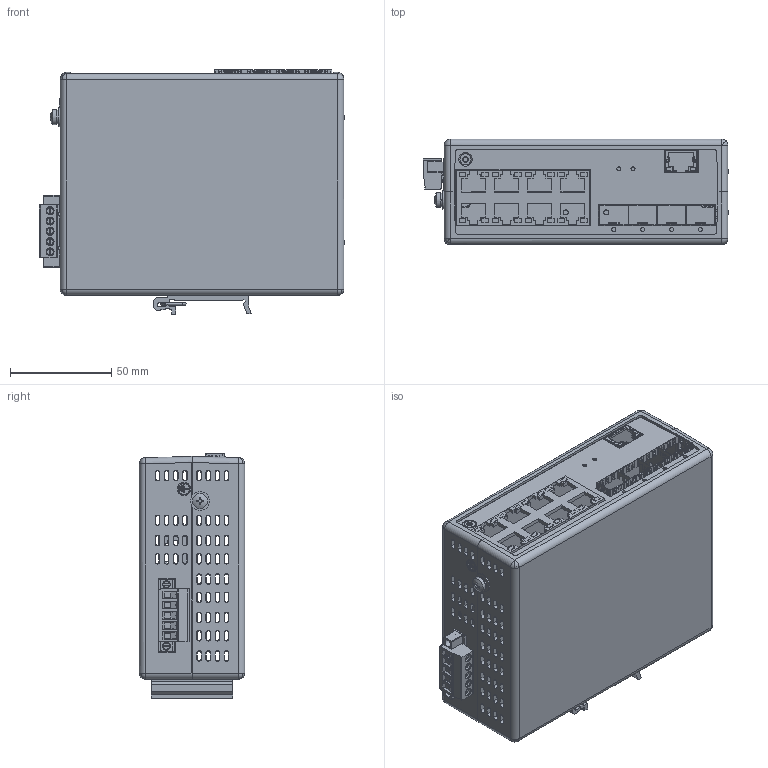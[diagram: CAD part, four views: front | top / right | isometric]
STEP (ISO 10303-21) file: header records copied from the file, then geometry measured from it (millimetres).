
FILE_DESCRIPTION(('TFLEX Exchange Step'),'2;1');
FILE_NAME('STK-EX-03-1000-C12F4080P.stp', '2025-01-30T10:19:11+03:00',('Yuriy Romanov'),('Unknown organisation'),'TFLEX Exchange 2023.2','T-FLEX CAD','Unknown authorisation');
FILE_SCHEMA( ('AUTOMOTIVE_DESIGN { 1 0 10303 214 1 1 1 1 }') );
Length unit declared in the file: millimetre
Products named in the file (1): STK-EX-03-1000-C12F4080P
Bounding box: 150.89 x 52 x 120.6 mm (x, y, z)
Volume: 79371 mm3; surface area: 123983.6 mm2
Topology: 34 solids, 38 shells, 2966 faces, 8467 edges, 5586 vertices
Faces by surface type: plane 1803, cylinder 634, cone 303, bspline 163, torus 48, sphere 15
Full cylindrical faces by diameter (mm): 1 x5, 1.2 x4, 2 x8, 2.5 x9, 3 x7, 3.5 x8, 3.85 x2, 3.95 x10, 4 x1, 4.5 x1, 4.533 x1, 5.5 x8, 7.467 x1, 9.333 x1
Entity records: 116031 total; most frequent: CARTESIAN_POINT 38474, ORIENTED_EDGE 16870, DIRECTION 15007, EDGE_CURVE 8435, VECTOR 5661, LINE 5661, VERTEX_POINT 5586, AXIS2_PLACEMENT_3D 4673
